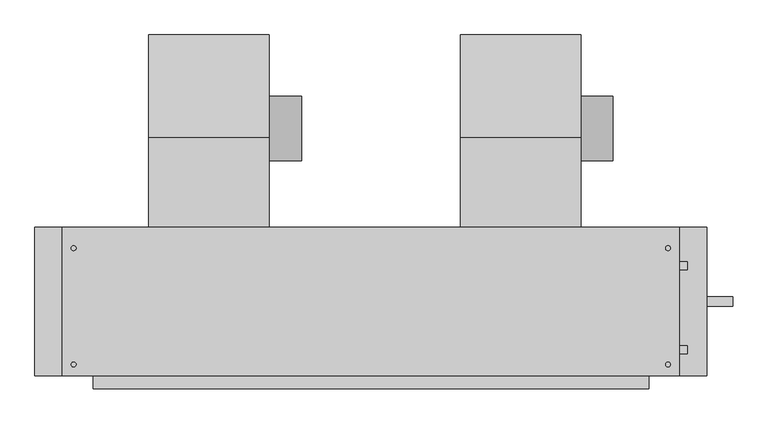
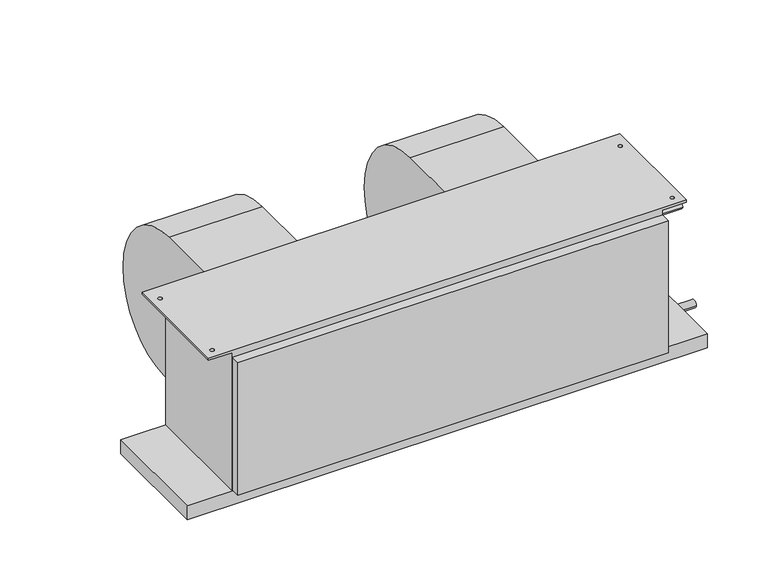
"""IFC4 building model written with IfcOpenShell, lengths in millimetres: proxy geometry, Concealed_High_Capacity_Horizontal_Fan_Coil_Unit_-_42DAA_-_CARRIER_-_2-Pipe_RH_2022 : Size 18 - 277v/60Hz/1Ph - 6 Row 12.0kW."""

from ifc_helpers import new_model, si_unit, point, frame, frame_2d, origin, place, context, project, spatial, polyline, circle_curve, trimmed, segment, composite_curve, outline, extrude, source, transform, mapped, element, save
from ifc_brep_helpers import plane_surface, cylinder_surface, revolved_surface, advanced_brep


def mechanical_equipment_6f511b50(model_context):
    return source(origin(), model_context, "Body", "SolidModel", [
        extrude(outline(composite_curve([segment(trimmed(circle_curve(frame_2d((102.0007598, -206.8897468)), 63.5), [point((165.5007598, -206.8897468))], [point((38.5007598, -206.8897468))], False, "CARTESIAN"), True, "CONTINUOUS"), segment(trimmed(circle_curve(frame_2d((102.0007598, -206.8897468)), 63.5), [point((38.5007598, -206.8897468))], [point((165.5007598, -206.8897468))], False, "CARTESIAN"), True, "CONTINUOUS")], self_intersect=False)), frame((-47.625, 0.0, 0.0), z_axis=(1.0, 0.0, 0.0), x_axis=(0.0, 1.0, 0.0)), (0.0, 0.0, 1.0), 63.5),
        advanced_brep(
        [(-284.099, 285.5155957, -222.029602), (-284.099, 104.6226, -403.64664), (-284.099, -50.9016, -277.10638), (-284.099, -92.075, -277.10638), (-284.099, -92.075, -19.05), (-284.099, 83.0080093, -19.05), (-47.625, 285.5155957, -222.029602), (-47.625, 83.0080093, -19.05), (-47.625, -92.075, -19.05), (-47.625, -92.075, -277.10638), (-47.625, -50.9016, -277.10638), (-47.625, 104.622599, -403.6457839)],
        [
            (0, 1, circle_curve(frame((-284.099, 104.44226, -222.57258), z_axis=(-1.0, 0.0, 0.0), x_axis=(0.0, -1.0, 0.0)), 181.0741498)),
            (1, 2, circle_curve(frame((-284.099, 104.44226, -245.02364), z_axis=(-1.0, 0.0, 0.0), x_axis=(0.0, -1.0, 0.0)), 158.6222464)),
            (2, 3),
            (3, 4),
            (4, 5),
            (5, 0, circle_curve(frame((-284.099, 81.9912, -222.57258), z_axis=(-1.0, 0.0, 0.0), x_axis=(0.0, -1.0, 0.0)), 203.52512)),
            (6, 7, circle_curve(frame((-47.625, 81.9912, -222.57258), z_axis=(1.0, 0.0, 0.0), x_axis=(0.0, -1.0, 0.0)), 203.52512)),
            (7, 8),
            (8, 9),
            (9, 10),
            (10, 11, circle_curve(frame((-47.625, 104.44226, -245.02364), z_axis=(1.0, 0.0, 0.0), x_axis=(0.0, -1.0, 0.0)), 158.6222464)),
            (11, 6, circle_curve(frame((-47.625, 104.44226, -222.57258), z_axis=(1.0, 0.0, 0.0), x_axis=(0.0, -1.0, 0.0)), 181.0741498)),
            (0, 6),
            (11, 1),
            (10, 2),
            (9, 3),
            (8, 4),
            (7, 5),
        ],
        [
            plane_surface(frame((-284.099, -76.6318898, -222.57258), z_axis=(-1.0, 0.0, 0.0), x_axis=(0.0, 0.0, 1.0))),
            plane_surface(frame((-47.625, -76.6318898, -222.57258), z_axis=(1.0, 0.0, 0.0), x_axis=(0.0, 0.0, -1.0))),
            cylinder_surface(frame((-47.625, 104.44226, -222.57258), z_axis=(-1.0, 0.0, 0.0), x_axis=(0.0, -1.0, 0.0)), 181.0741498),
            cylinder_surface(frame((-47.625, 104.44226, -245.02364), z_axis=(-1.0, 0.0, 0.0), x_axis=(0.0, -1.0, 0.0)), 158.6222464),
            plane_surface(frame((-284.099, -50.9016, -277.10638), z_axis=(0.0, 0.0, -1.0), x_axis=(1.0, 0.0, 0.0))),
            plane_surface(frame((-284.099, -92.075, -277.10638), z_axis=(0.0, -1.0, 0.0), x_axis=(1.0, 0.0, 0.0))),
            plane_surface(frame((-284.099, -92.075, -19.05), z_axis=(0.0, 0.0, 1.0), x_axis=(1.0, 0.0, 0.0))),
            cylinder_surface(frame((-47.625, 81.9912, -222.57258), z_axis=(-1.0, 0.0, 0.0), x_axis=(0.0, -1.0, 0.0)), 203.52512),
        ],
        [
            (0, [[1, 2, 3, 4, 5, 6]]),
            (1, [[7, 8, 9, 10, 11, 12]]),
            (2, [[-1, 13, -12, 14]]),
            (3, [[-2, -14, -11, 15]]),
            (4, [[-3, -15, -10, 16]]),
            (5, [[-4, -16, -9, 17]]),
            (6, [[-5, -17, -8, 18]]),
            (7, [[-6, -18, -7, -13]]),
        ],
    ),
        extrude(outline(composite_curve([segment(trimmed(circle_curve(frame_2d((102.0007598, -206.8897468)), 63.5), [point((165.5007598, -206.8897468))], [point((38.5007598, -206.8897468))], False, "CARTESIAN"), True, "CONTINUOUS"), segment(trimmed(circle_curve(frame_2d((102.0007598, -206.8897468)), 63.5), [point((38.5007598, -206.8897468))], [point((165.5007598, -206.8897468))], False, "CARTESIAN"), True, "CONTINUOUS")], self_intersect=False)), frame((565.15, 0.0, 0.0), z_axis=(1.0, 0.0, 0.0), x_axis=(0.0, 1.0, 0.0)), (0.0, 0.0, 1.0), 63.5),
        advanced_brep(
        [(328.676, 285.5155957, -222.029602), (328.676, 104.6226, -403.64664), (328.676, -50.9016, -277.10638), (328.676, -92.075, -277.10638), (328.676, -92.075, -19.05), (328.676, 83.0080093, -19.05), (565.15, 285.5155957, -222.029602), (565.15, 83.0080093, -19.05), (565.15, -92.075, -19.05), (565.15, -92.075, -277.10638), (565.15, -50.9016, -277.10638), (565.15, 104.622599, -403.6457839)],
        [
            (0, 1, circle_curve(frame((328.676, 104.44226, -222.57258), z_axis=(-1.0, 0.0, 0.0), x_axis=(0.0, -1.0, 0.0)), 181.0741498)),
            (1, 2, circle_curve(frame((328.676, 104.44226, -245.02364), z_axis=(-1.0, 0.0, 0.0), x_axis=(0.0, -1.0, 0.0)), 158.6222464)),
            (2, 3),
            (3, 4),
            (4, 5),
            (5, 0, circle_curve(frame((328.676, 81.9912, -222.57258), z_axis=(-1.0, 0.0, 0.0), x_axis=(0.0, -1.0, 0.0)), 203.52512)),
            (6, 7, circle_curve(frame((565.15, 81.9912, -222.57258), z_axis=(1.0, 0.0, 0.0), x_axis=(0.0, -1.0, 0.0)), 203.52512)),
            (7, 8),
            (8, 9),
            (9, 10),
            (10, 11, circle_curve(frame((565.15, 104.44226, -245.02364), z_axis=(1.0, 0.0, 0.0), x_axis=(0.0, -1.0, 0.0)), 158.6222464)),
            (11, 6, circle_curve(frame((565.15, 104.44226, -222.57258), z_axis=(1.0, 0.0, 0.0), x_axis=(0.0, -1.0, 0.0)), 181.0741498)),
            (0, 6),
            (11, 1),
            (10, 2),
            (9, 3),
            (8, 4),
            (7, 5),
        ],
        [
            plane_surface(frame((328.676, -76.6318898, -222.57258), z_axis=(-1.0, 0.0, 0.0), x_axis=(0.0, 0.0, 1.0))),
            plane_surface(frame((565.15, -76.6318898, -222.57258), z_axis=(1.0, 0.0, 0.0), x_axis=(0.0, 0.0, -1.0))),
            cylinder_surface(frame((565.15, 104.44226, -222.57258), z_axis=(-1.0, 0.0, 0.0), x_axis=(0.0, -1.0, 0.0)), 181.0741498),
            cylinder_surface(frame((565.15, 104.44226, -245.02364), z_axis=(-1.0, 0.0, 0.0), x_axis=(0.0, -1.0, 0.0)), 158.6222464),
            plane_surface(frame((328.676, -50.9016, -277.10638), z_axis=(0.0, 0.0, -1.0), x_axis=(1.0, 0.0, 0.0))),
            plane_surface(frame((328.676, -92.075, -277.10638), z_axis=(0.0, -1.0, 0.0), x_axis=(1.0, 0.0, 0.0))),
            plane_surface(frame((328.676, -92.075, -19.05), z_axis=(0.0, 0.0, 1.0), x_axis=(1.0, 0.0, 0.0))),
            cylinder_surface(frame((565.15, 81.9912, -222.57258), z_axis=(-1.0, 0.0, 0.0), x_axis=(0.0, -1.0, 0.0)), 203.52512),
        ],
        [
            (0, [[1, 2, 3, 4, 5, 6]]),
            (1, [[7, 8, 9, 10, 11, 12]]),
            (2, [[-1, 13, -12, 14]]),
            (3, [[-2, -14, -11, 15]]),
            (4, [[-3, -15, -10, 16]]),
            (5, [[-4, -16, -9, 17]]),
            (6, [[-5, -17, -8, 18]]),
            (7, [[-6, -18, -7, -13]]),
        ],
    ),
        advanced_brep(
        [(758.825, -92.075, -6.35), (758.825, -384.175, -6.35), (698.5, -384.175, -6.35), (698.5, -92.075, -6.35), (731.8375, -133.35, -6.35), (741.3625, -133.35, -6.35), (731.8375, -361.95, -6.35), (741.3625, -361.95, -6.35), (-454.025, -92.075, -6.35), (-393.7, -92.075, -6.35), (-393.7, -384.175, -6.35), (-454.025, -384.175, -6.35), (-436.5625, -133.35, -6.35), (-427.0375, -133.35, -6.35), (-436.5625, -361.95, -6.35), (-427.0375, -361.95, -6.35), (758.825, -384.175, 0.0), (758.825, -92.075, 0.0), (-454.025, -92.075, 0.0), (-454.025, -384.175, 0.0), (-427.0375, -133.35, 0.0), (-436.5625, -133.35, 0.0), (-427.0375, -361.95, 0.0), (-436.5625, -361.95, 0.0), (741.3625, -133.35, 0.0), (731.8375, -133.35, 0.0), (741.3625, -361.95, 0.0), (731.8375, -361.95, 0.0), (698.5, -92.075, -377.825), (-393.7, -92.075, -377.825), (-393.7, -384.175, -377.825), (698.5, -384.175, -377.825)],
        [
            (0, 1),
            (1, 2),
            (2, 3),
            (3, 0),
            (4, 5, circle_curve(frame((736.6, -133.35, -6.35), z_axis=(0.0, 0.0, 1.0), x_axis=(1.0, 0.0, 0.0)), 4.7625)),
            (5, 4, circle_curve(frame((736.6, -133.35, -6.35), z_axis=(0.0, 0.0, 1.0), x_axis=(1.0, 0.0, 0.0)), 4.7625)),
            (6, 7, circle_curve(frame((736.6, -361.95, -6.35), z_axis=(0.0, 0.0, 1.0), x_axis=(1.0, 0.0, 0.0)), 4.7625)),
            (7, 6, circle_curve(frame((736.6, -361.95, -6.35), z_axis=(0.0, 0.0, 1.0), x_axis=(1.0, 0.0, 0.0)), 4.7625)),
            (8, 9),
            (9, 10),
            (10, 11),
            (11, 8),
            (12, 13, circle_curve(frame((-431.8, -133.35, -6.35), z_axis=(0.0, 0.0, 1.0), x_axis=(1.0, 0.0, 0.0)), 4.7625)),
            (13, 12, circle_curve(frame((-431.8, -133.35, -6.35), z_axis=(0.0, 0.0, 1.0), x_axis=(1.0, 0.0, 0.0)), 4.7625)),
            (14, 15, circle_curve(frame((-431.8, -361.95, -6.35), z_axis=(0.0, 0.0, 1.0), x_axis=(1.0, 0.0, 0.0)), 4.7625)),
            (15, 14, circle_curve(frame((-431.8, -361.95, -6.35), z_axis=(0.0, 0.0, 1.0), x_axis=(1.0, 0.0, 0.0)), 4.7625)),
            (16, 17),
            (17, 18),
            (18, 19),
            (19, 16),
            (20, 21, circle_curve(frame((-431.8, -133.35, 0.0), z_axis=(0.0, 0.0, -1.0), x_axis=(1.0, 0.0, 0.0)), 4.7625)),
            (21, 20, circle_curve(frame((-431.8, -133.35, 0.0), z_axis=(0.0, 0.0, -1.0), x_axis=(1.0, 0.0, 0.0)), 4.7625)),
            (22, 23, circle_curve(frame((-431.8, -361.95, 0.0), z_axis=(0.0, 0.0, -1.0), x_axis=(1.0, 0.0, 0.0)), 4.7625)),
            (23, 22, circle_curve(frame((-431.8, -361.95, 0.0), z_axis=(0.0, 0.0, -1.0), x_axis=(1.0, 0.0, 0.0)), 4.7625)),
            (24, 25, circle_curve(frame((736.6, -133.35, 0.0), z_axis=(0.0, 0.0, -1.0), x_axis=(1.0, 0.0, 0.0)), 4.7625)),
            (25, 24, circle_curve(frame((736.6, -133.35, 0.0), z_axis=(0.0, 0.0, -1.0), x_axis=(1.0, 0.0, 0.0)), 4.7625)),
            (26, 27, circle_curve(frame((736.6, -361.95, 0.0), z_axis=(0.0, 0.0, -1.0), x_axis=(1.0, 0.0, 0.0)), 4.7625)),
            (27, 26, circle_curve(frame((736.6, -361.95, 0.0), z_axis=(0.0, 0.0, -1.0), x_axis=(1.0, 0.0, 0.0)), 4.7625)),
            (3, 28),
            (28, 29),
            (29, 9),
            (8, 18),
            (17, 0),
            (1, 16),
            (19, 11),
            (10, 30),
            (30, 31),
            (31, 2),
            (28, 31),
            (30, 29),
            (20, 13),
            (12, 21),
            (22, 15),
            (14, 23),
            (24, 5),
            (4, 25),
            (26, 7),
            (6, 27),
        ],
        [
            plane_surface(frame((698.5, -92.075, -6.35), z_axis=(0.0, 0.0, -1.0), x_axis=(1.0, 0.0, 0.0))),
            plane_surface(frame((698.5, -92.075, 0.0), z_axis=(0.0, 0.0, 1.0), x_axis=(-1.0, 0.0, 0.0))),
            plane_surface(frame((758.825, -92.075, 0.0), z_axis=(0.0, 1.0, 0.0), x_axis=(0.0, 0.0, -1.0))),
            plane_surface(frame((698.5, -384.175, 0.0), z_axis=(0.0, -1.0, 0.0), x_axis=(0.0, 0.0, -1.0))),
            plane_surface(frame((758.825, -384.175, 0.0), z_axis=(1.0, 0.0, 0.0), x_axis=(0.0, 0.0, -1.0))),
            plane_surface(frame((-454.025, -92.075, 0.0), z_axis=(-1.0, 0.0, 0.0), x_axis=(0.0, 0.0, -1.0))),
            plane_surface(frame((-393.7, -92.075, -377.825), z_axis=(0.0, 0.0, -1.0), x_axis=(1.0, 0.0, 0.0))),
            plane_surface(frame((-393.7, -92.075, 0.0), z_axis=(-1.0, 0.0, 0.0), x_axis=(0.0, 0.0, -1.0))),
            plane_surface(frame((698.5, -384.175, 0.0), z_axis=(1.0, 0.0, 0.0), x_axis=(0.0, 0.0, -1.0))),
            revolved_surface(polyline([(-427.0375, -133.35, 0.0), (-427.0375, -133.35, -6.35)]), (-431.8, -133.35, -6.35), (0.0, 0.0, 1.0)),
            revolved_surface(polyline([(-427.0375, -361.95, 0.0), (-427.0375, -361.95, -6.35)]), (-431.8, -361.95, 0.0), (0.0, 0.0, 1.0)),
            revolved_surface(polyline([(741.3625000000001, -133.35, 0.0), (741.3625000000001, -133.35, -6.35)]), (736.6, -133.35, 0.0), (0.0, 0.0, 1.0)),
            revolved_surface(polyline([(741.3625000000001, -361.95, 0.0), (741.3625000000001, -361.95, -6.35)]), (736.6, -361.95, 0.0), (0.0, 0.0, 1.0)),
        ],
        [
            (0, [[1, 2, 3, 4], [5, 6], [7, 8]]),
            (0, [[9, 10, 11, 12], [13, 14], [15, 16]]),
            (1, [[17, 18, 19, 20], [21, 22], [23, 24], [25, 26], [27, 28]]),
            (2, [[-4, 29, 30, 31, -9, 32, -18, 33]]),
            (3, [[-2, 34, -20, 35, -11, 36, 37, 38]]),
            (4, [[-1, -33, -17, -34]]),
            (5, [[-12, -35, -19, -32]]),
            (6, [[39, -37, 40, -30]]),
            (7, [[-40, -36, -10, -31]]),
            (8, [[-39, -29, -3, -38]]),
            (9, [[41, -13, 42, -21]]),
            (9, [[-41, -22, -42, -14]]),
            (10, [[43, -15, 44, -23]]),
            (10, [[-43, -24, -44, -16]]),
            (11, [[45, -5, 46, -25]]),
            (11, [[-45, -26, -46, -6]]),
            (12, [[47, -7, 48, -27]]),
            (12, [[-47, -28, -48, -8]]),
        ],
    ),
        extrude(outline(composite_curve([segment(trimmed(circle_curve(frame_2d((-238.125, -403.225)), 9.525), [point((-228.6, -403.225))], [point((-247.65, -403.225))], False, "CARTESIAN"), True, "CONTINUOUS"), segment(trimmed(circle_curve(frame_2d((-238.125, -403.225)), 9.525), [point((-247.65, -403.225))], [point((-228.6, -403.225))], False, "CARTESIAN"), True, "CONTINUOUS")], self_intersect=False)), frame((812.8, 0.0, 0.0), z_axis=(1.0, 0.0, 0.0), x_axis=(0.0, 1.0, 0.0)), (0.0, 0.0, 1.0), 50.8),
        extrude(outline(composite_curve([segment(trimmed(circle_curve(frame_2d((-333.375, -50.8)), 7.9375), [point((-325.4375, -50.8))], [point((-341.3125, -50.8))], False, "CARTESIAN"), True, "CONTINUOUS"), segment(trimmed(circle_curve(frame_2d((-333.375, -50.8)), 7.9375), [point((-341.3125, -50.8))], [point((-325.4375, -50.8))], False, "CARTESIAN"), True, "CONTINUOUS")], self_intersect=False)), frame((698.5, 0.0, 0.0), z_axis=(1.0, 0.0, 0.0), x_axis=(0.0, 1.0, 0.0)), (0.0, 0.0, 1.0), 76.2),
        extrude(outline(composite_curve([segment(trimmed(circle_curve(frame_2d((-168.275, -327.025)), 7.9375), [point((-160.3375, -327.025))], [point((-176.2125, -327.025))], False, "CARTESIAN"), True, "CONTINUOUS"), segment(trimmed(circle_curve(frame_2d((-168.275, -327.025)), 7.9375), [point((-176.2125, -327.025))], [point((-160.3375, -327.025))], False, "CARTESIAN"), True, "CONTINUOUS")], self_intersect=False)), frame((698.5, 0.0, 0.0), z_axis=(1.0, 0.0, 0.0), x_axis=(0.0, 1.0, 0.0)), (0.0, 0.0, 1.0), 76.2),
        extrude(outline(polyline([(698.5, -409.575), (-393.7, -409.575), (-393.7, -384.175), (698.5, -384.175), (698.5, -409.575)])), frame((0.0, 0.0, -374.65), z_axis=(0.0, 0.0, 1.0), x_axis=(1.0, 0.0, 0.0)), (0.0, 0.0, 1.0), 355.6),
        extrude(outline(polyline([(812.8, -92.075), (812.8, -384.175), (-508.0, -384.175), (-508.0, -92.075), (812.8, -92.075)])), frame((0.0, 0.0, -415.925), z_axis=(0.0, 0.0, 1.0), x_axis=(1.0, 0.0, 0.0)), (0.0, 0.0, 1.0), 38.1),
    ])


if __name__ == "__main__":
    model = new_model("IFC4")
    model_context = context("Model", 3, world=origin())
    ifc_project = project(units=[si_unit("LENGTHUNIT", "METRE", prefix="MILLI")], contexts=[model_context])
    site = spatial("IfcSite", under=ifc_project)
    building = spatial("IfcBuilding", under=site)
    placement = place(None, origin())
    mechanical_equipment_shape = mechanical_equipment_6f511b50(model_context)
    element("IfcBuildingElementProxy", 1, Name="Concealed_High_Capacity_Horizontal_Fan_Coil_Unit_-_42DAA_-_CARRIER_-_2-Pipe_RH_2022 : Size 18 - 277v/60Hz/1Ph - 6 Row 12.0kW", ObjectType="Concealed_High_Capacity_Horizontal_Fan_Coil_Unit_-_42DAA_-_CARRIER_-_2-Pipe_RH_2022 : Size 18 - 277v/60Hz/1Ph - 6 Row 12.0kW", at=placement, inside=building, context=model_context, shape_type="MappedRepresentation", body=[
        mapped(mechanical_equipment_shape, transform((0.0, 0.0, 0.0), x_axis=(1.0, 0.0, 0.0), y_axis=(0.0, 1.0, 0.0), z_axis=(0.0, 0.0, 1.0))),
    ])
    save(model, "model.ifc")
